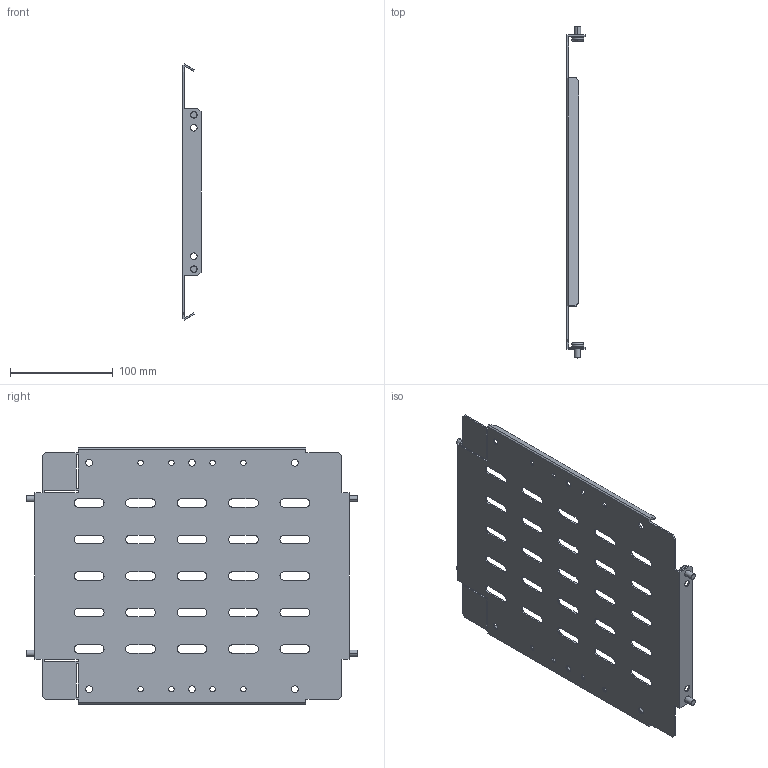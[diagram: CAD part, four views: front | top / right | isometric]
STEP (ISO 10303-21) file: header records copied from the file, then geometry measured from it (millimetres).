
FILE_DESCRIPTION (( 'STEP AP214' ), '1' );
FILE_NAME ('FO-00-SWV-025-040 Ïåðåãîðîäêà ñåêöèîíèðîâàíèÿ âåðòèêàëüíàÿ 250õ400 ìì.STEP', '2025-08-11T07:49:25', ( '' ), ( '' ), 'SwSTEP 2.0', 'SolidWorks 2023', '' );
FILE_SCHEMA (( 'AUTOMOTIVE_DESIGN' ));
Length unit declared in the file: millimetre
Products named in the file (1): FO-00-SWV-025-040 Перегородка секционирования вертикальная 250х400 мм
Bounding box: 17.5 x 322.5 x 248.93 mm (x, y, z)
Volume: 119070.9 mm3; surface area: 162729.1 mm2
Topology: 1 solids, 1 shells, 296 faces, 810 edges, 532 vertices
Faces by surface type: plane 162, cylinder 110, torus 16, cone 8
Entity records: 9613 total; most frequent: DIRECTION 1664, CARTESIAN_POINT 1639, ORIENTED_EDGE 1620, EDGE_CURVE 810, AXIS2_PLACEMENT_3D 557, VECTOR 550, LINE 550, VERTEX_POINT 532
